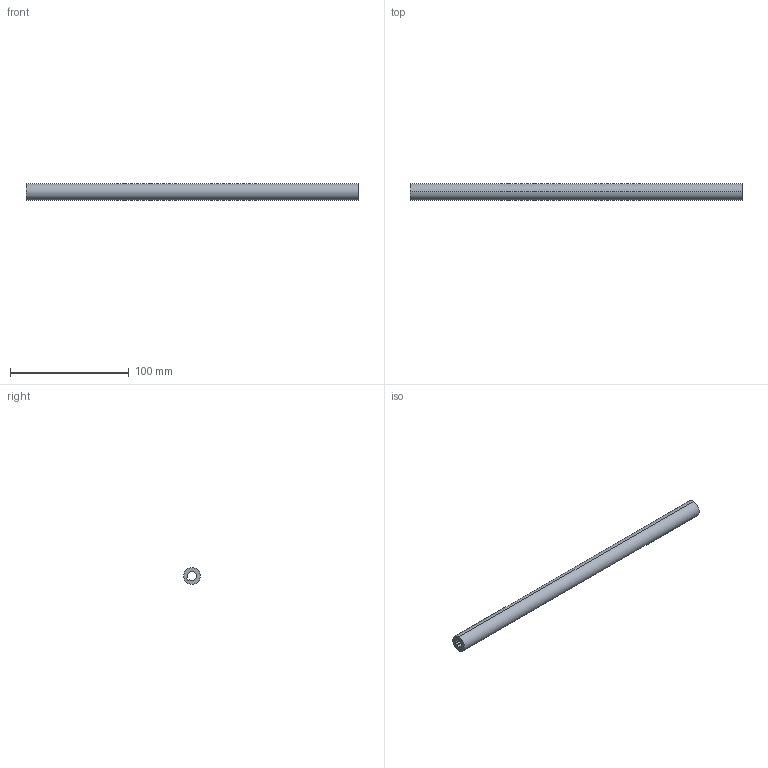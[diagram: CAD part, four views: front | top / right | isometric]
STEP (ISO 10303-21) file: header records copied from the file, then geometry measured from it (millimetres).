
FILE_DESCRIPTION (( 'STEP AP214' ), '1' );
FILE_NAME ('SyncronisationsstangeNova_Pro_KAB_0400_KS16.step', '2009-11-24T08:53:13', ( 'Grass' ), ( 'Grass GmbH' ), 'SwSTEP 2.0', 'SolidWorks 2009', '' );
FILE_SCHEMA (( 'AUTOMOTIVE_DESIGN' ));
Length unit declared in the file: millimetre
Products named in the file (1): SyncronisationsstangeNova_Pro_KAB_0400_KS16
Bounding box: 279 x 14 x 14 mm (x, y, z)
Volume: 30168.2 mm3; surface area: 19596.5 mm2
Topology: 1 solids, 1 shells, 15 faces, 39 edges, 26 vertices
Faces by surface type: cylinder 11, plane 4
Entity records: 513 total; most frequent: DIRECTION 93, CARTESIAN_POINT 81, ORIENTED_EDGE 78, EDGE_CURVE 39, AXIS2_PLACEMENT_3D 38, VERTEX_POINT 26, CIRCLE 22, VECTOR 17
